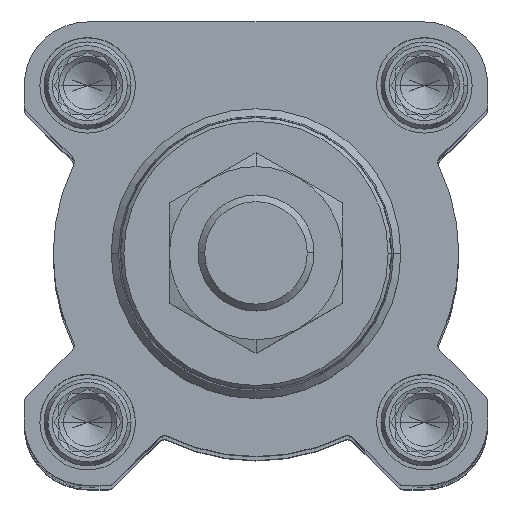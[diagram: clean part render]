
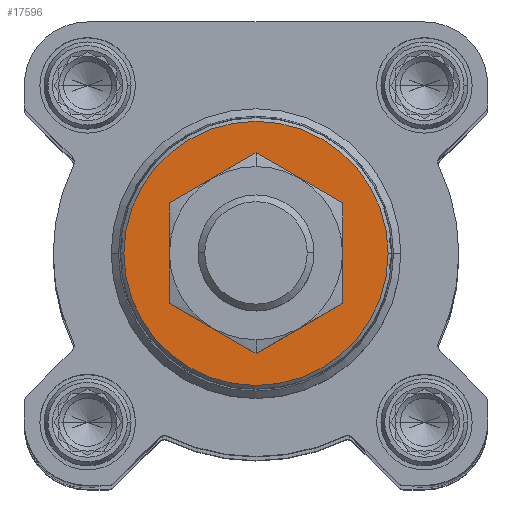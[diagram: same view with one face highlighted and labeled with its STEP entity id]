
A CAD part, top view. The second image highlights one B-rep face of the part: STEP entity #17596.
In plain terms, the highlighted planar face has unit normal (0, 0, 1).
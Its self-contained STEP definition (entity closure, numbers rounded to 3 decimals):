
#885 = DIRECTION ( 'NONE',  ( 0., -1., 0. ) ) ;
#1921 = EDGE_CURVE ( 'NONE', #4194, #15223, #15791, .T. ) ;
#4194 = VERTEX_POINT ( 'NONE', #10148 ) ;
#4335 = ORIENTED_EDGE ( 'NONE', *, *, #8865, .T. ) ;
#4399 = AXIS2_PLACEMENT_3D ( 'NONE', #4428, #8582, #885 ) ;
#4428 = CARTESIAN_POINT ( 'NONE',  ( 0., 0., 26.8 ) ) ;
#4573 = CIRCLE ( 'NONE', #16836, 10. ) ;
#4877 = DIRECTION ( 'NONE',  ( 0., 0., -1. ) ) ;
#5826 = DIRECTION ( 'NONE',  ( -1., 0., 0. ) ) ;
#6301 = CARTESIAN_POINT ( 'NONE',  ( 0., 0., 26.8 ) ) ;
#7111 = EDGE_CURVE ( 'NONE', #15223, #4194, #13073, .T. ) ;
#7687 = DIRECTION ( 'NONE',  ( -1., 0., 0. ) ) ;
#7893 = CARTESIAN_POINT ( 'NONE',  ( 0., 0., 26.8 ) ) ;
#8105 = ORIENTED_EDGE ( 'NONE', *, *, #7111, .F. ) ;
#8582 = DIRECTION ( 'NONE',  ( 0., 0., -1. ) ) ;
#8865 = EDGE_CURVE ( 'NONE', #10934, #18202, #4573, .T. ) ;
#9555 = EDGE_LOOP ( 'NONE', ( #4335, #16965 ) ) ;
#9651 = AXIS2_PLACEMENT_3D ( 'NONE', #17286, #18501, #16981 ) ;
#9654 = CARTESIAN_POINT ( 'NONE',  ( 10., 0., 26.8 ) ) ;
#9767 = CIRCLE ( 'NONE', #12335, 10. ) ;
#9934 = EDGE_CURVE ( 'NONE', #18202, #10934, #9767, .T. ) ;
#10148 = CARTESIAN_POINT ( 'NONE',  ( -18.242, 0., 26.8 ) ) ;
#10384 = FACE_BOUND ( 'NONE', #9555, .T. ) ;
#10437 = EDGE_LOOP ( 'NONE', ( #13489, #8105 ) ) ;
#10934 = VERTEX_POINT ( 'NONE', #14625 ) ;
#11786 = CARTESIAN_POINT ( 'NONE',  ( 0., 0., 26.8 ) ) ;
#12335 = AXIS2_PLACEMENT_3D ( 'NONE', #11786, #18158, #5826 ) ;
#12444 = DIRECTION ( 'NONE',  ( -1., 0., 0. ) ) ;
#13073 = CIRCLE ( 'NONE', #17928, 18.242 ) ;
#13489 = ORIENTED_EDGE ( 'NONE', *, *, #1921, .F. ) ;
#14625 = CARTESIAN_POINT ( 'NONE',  ( -10., 0., 26.8 ) ) ;
#15223 = VERTEX_POINT ( 'NONE', #17026 ) ;
#15791 = CIRCLE ( 'NONE', #9651, 18.242 ) ;
#16555 = FACE_OUTER_BOUND ( 'NONE', #10437, .T. ) ;
#16836 = AXIS2_PLACEMENT_3D ( 'NONE', #6301, #4877, #12444 ) ;
#16965 = ORIENTED_EDGE ( 'NONE', *, *, #9934, .T. ) ;
#16981 = DIRECTION ( 'NONE',  ( -1., 0., 0. ) ) ;
#17026 = CARTESIAN_POINT ( 'NONE',  ( 18.242, 0., 26.8 ) ) ;
#17286 = CARTESIAN_POINT ( 'NONE',  ( 0., 0., 26.8 ) ) ;
#17596 = ADVANCED_FACE ( 'NONE', ( #16555, #10384 ), #18281, .F. ) ;
#17928 = AXIS2_PLACEMENT_3D ( 'NONE', #7893, #18718, #7687 ) ;
#18158 = DIRECTION ( 'NONE',  ( 0., 0., -1. ) ) ;
#18202 = VERTEX_POINT ( 'NONE', #9654 ) ;
#18281 = PLANE ( 'NONE',  #4399 ) ;
#18501 = DIRECTION ( 'NONE',  ( 0., 0., -1. ) ) ;
#18718 = DIRECTION ( 'NONE',  ( 0., 0., -1. ) ) ;
